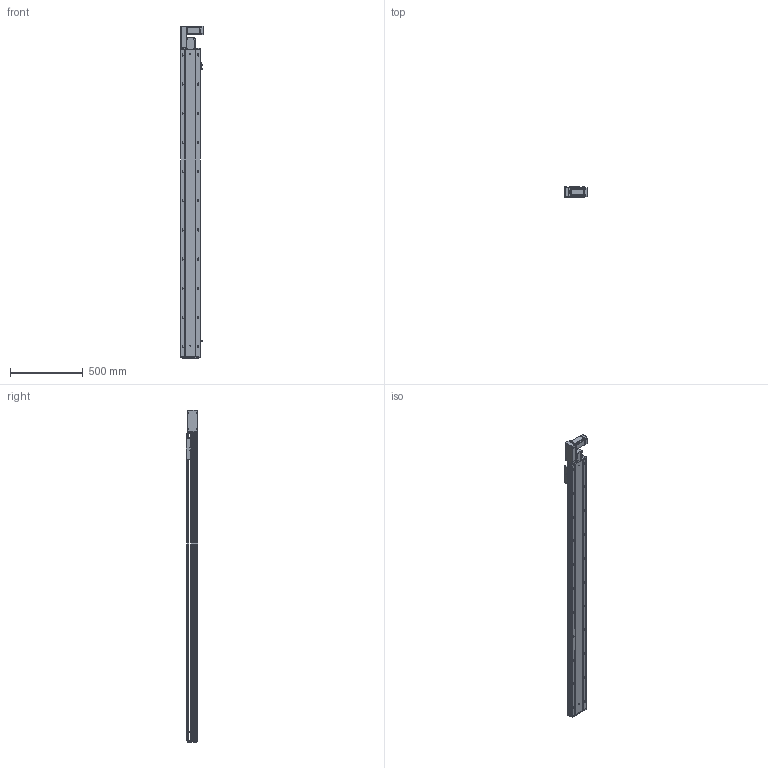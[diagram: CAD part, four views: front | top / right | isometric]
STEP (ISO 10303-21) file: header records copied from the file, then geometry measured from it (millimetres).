
FILE_DESCRIPTION (( 'STEP AP203' ), '1' );
FILE_NAME ('RY140-T-300-LK.SLDASM_1850.step', '2021-03-01T06:36:49', ( '盈信电脑' ), ( '东莞市道滘镇水果街19号' ), 'SwSTEP 2.0', 'SolidWorks 2012', '' );
FILE_SCHEMA (( 'CONFIG_CONTROL_DESIGN' ));
Length unit declared in the file: millimetre
Products named in the file (18): RY140-T翋肮謫裔啣; 滅袉蝶18-10; RY140-T萇儂欶; RY140-T-300-LK.SLDASM_1850; 15; 侂狟400W侜督萇儂; RY120-T主同步轮轴承压盖; RY120-T肮祭湍揤踡輸2; RY120-T肮祭湍揤踡輸1; RY140-T翋肮祭謫盓傅釱; RY140-T萇儂假蚾啣; RY120外置感应片(140共用）; RY140綴裔啣; 覜茼ん672; RY140-T-300-DL倰第菁釱_1850; RY140肮祭謫臏賑輸; RY140-T-300-DL倰第奻裔啣_1850; RY120-T蹟翐M4
Assembly tree (23 placements, depth 3):
  RY140-T-300-LK.SLDASM_1850
    RY140-T-300-DL倰第菁釱_1850
    RY140肮祭謫臏賑輸
    RY140-T-300-DL倰第奻裔啣_1850
    RY140綴裔啣
    覜茼ん672  x3
    RY120外置感应片(140共用）
    RY120-T肮祭湍揤踡輸2
    RY120-T肮祭湍揤踡輸1
    RY140-T翋肮祭謫盓傅釱
    RY140-T萇儂假蚾啣
    侂狟400W侜督萇儂
      15
    RY120-T主同步轮轴承压盖
    RY120-T蹟翐M4  x4
    RY140-T萇儂欶
    滅袉蝶18-10  x2
    RY140-T翋肮謫裔啣
Bounding box: 157 x 78 x 2276.5 mm (x, y, z)
Volume: 6029788.3 mm3; surface area: 2354461.2 mm2
Topology: 22 solids, 22 shells, 2847 faces, 7817 edges, 4978 vertices
Faces by surface type: plane 1381, cylinder 1088, cone 278, bspline 100
Entity records: 90053 total; most frequent: CARTESIAN_POINT 21873, ORIENTED_EDGE 14002, DIRECTION 13385, EDGE_CURVE 7001, VERTEX_POINT 4577, AXIS2_PLACEMENT_3D 4496, VECTOR 4393, LINE 4393
